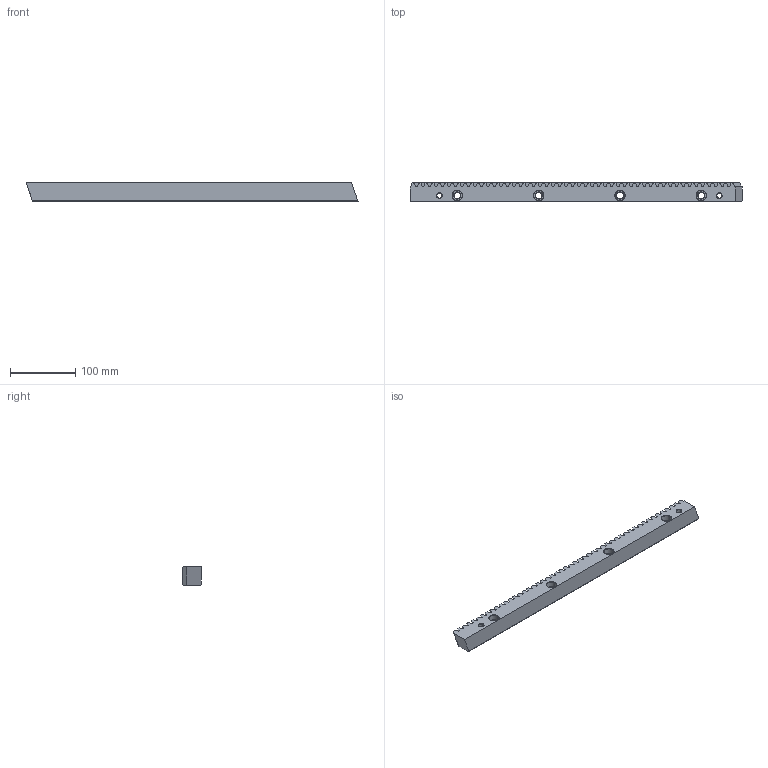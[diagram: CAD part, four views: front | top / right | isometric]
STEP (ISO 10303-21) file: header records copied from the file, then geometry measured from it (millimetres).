
FILE_DESCRIPTION (( 'STEP AP214' ), '1' );
FILE_NAME ('1HR35R020100H.STEP', '2021-12-06T09:52:08', ( '' ), ( '' ), 'SwSTEP 2.0', 'SolidWorks 2021', '' );
FILE_SCHEMA (( 'AUTOMOTIVE_DESIGN' ));
Length unit declared in the file: millimetre
Products named in the file (1): 1HR35R020100H
Bounding box: 510.29 x 29 x 29 mm (x, y, z)
Volume: 357474 mm3; surface area: 73974 mm2
Topology: 1 solids, 1 shells, 551 faces, 1615 edges, 1070 vertices
Faces by surface type: plane 311, cylinder 220, cone 20
Entity records: 17987 total; most frequent: CARTESIAN_POINT 4437, ORIENTED_EDGE 3230, DIRECTION 2379, EDGE_CURVE 1615, LINE 1155, VECTOR 1155, VERTEX_POINT 1070, AXIS2_PLACEMENT_3D 612
